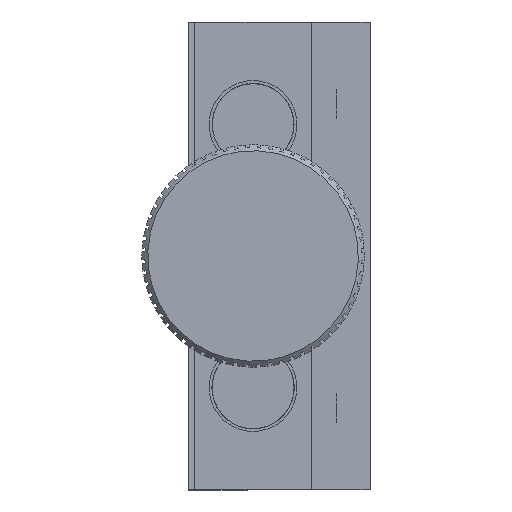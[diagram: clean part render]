
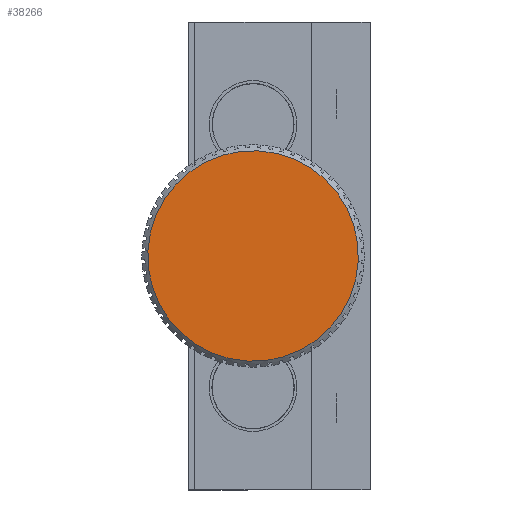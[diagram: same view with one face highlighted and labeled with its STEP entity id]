
A CAD part, left-side view. The second image highlights one B-rep face of the part: STEP entity #38266.
In plain terms, the highlighted planar face has unit normal (-1, 0, 0) as drawn and (1, 0, 0) by its records, which use the part's own axes.
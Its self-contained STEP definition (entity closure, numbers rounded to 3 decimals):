
#2831 = VERTEX_POINT ( 'NONE', #31481 ) ;
#3786 = DIRECTION ( 'NONE',  ( 0., 0., -1. ) ) ;
#13105 = CIRCLE ( 'NONE', #54234, 18. ) ;
#18299 = EDGE_LOOP ( 'NONE', ( #22040, #37413 ) ) ;
#18551 = DIRECTION ( 'NONE',  ( 0., 0., 1. ) ) ;
#18704 = EDGE_CURVE ( 'NONE', #44712, #2831, #23515, .T. ) ;
#22040 = ORIENTED_EDGE ( 'NONE', *, *, #51160, .T. ) ;
#23515 = CIRCLE ( 'NONE', #45493, 18. ) ;
#28351 = DIRECTION ( 'NONE',  ( 1., 0., 0. ) ) ;
#31481 = CARTESIAN_POINT ( 'NONE',  ( 81.5, 20., 18. ) ) ;
#32171 = CARTESIAN_POINT ( 'NONE',  ( 81.5, 20., -18. ) ) ;
#32292 = CARTESIAN_POINT ( 'NONE',  ( 81.5, 20., 0. ) ) ;
#32486 = DIRECTION ( 'NONE',  ( 1., 0., 0. ) ) ;
#33542 = CARTESIAN_POINT ( 'NONE',  ( 81.5, 20., 0. ) ) ;
#36299 = AXIS2_PLACEMENT_3D ( 'NONE', #32292, #32486, #3786 ) ;
#37413 = ORIENTED_EDGE ( 'NONE', *, *, #18704, .T. ) ;
#38127 = DIRECTION ( 'NONE',  ( 0., 0., 1. ) ) ;
#38266 = ADVANCED_FACE ( 'NONE', ( #45033 ), #56041, .T. ) ;
#38539 = CARTESIAN_POINT ( 'NONE',  ( 81.5, 20., 0. ) ) ;
#43300 = DIRECTION ( 'NONE',  ( 1., 0., 0. ) ) ;
#44712 = VERTEX_POINT ( 'NONE', #32171 ) ;
#45033 = FACE_OUTER_BOUND ( 'NONE', #18299, .T. ) ;
#45493 = AXIS2_PLACEMENT_3D ( 'NONE', #38539, #43300, #18551 ) ;
#51160 = EDGE_CURVE ( 'NONE', #2831, #44712, #13105, .T. ) ;
#54234 = AXIS2_PLACEMENT_3D ( 'NONE', #33542, #28351, #38127 ) ;
#56041 = PLANE ( 'NONE',  #36299 ) ;
